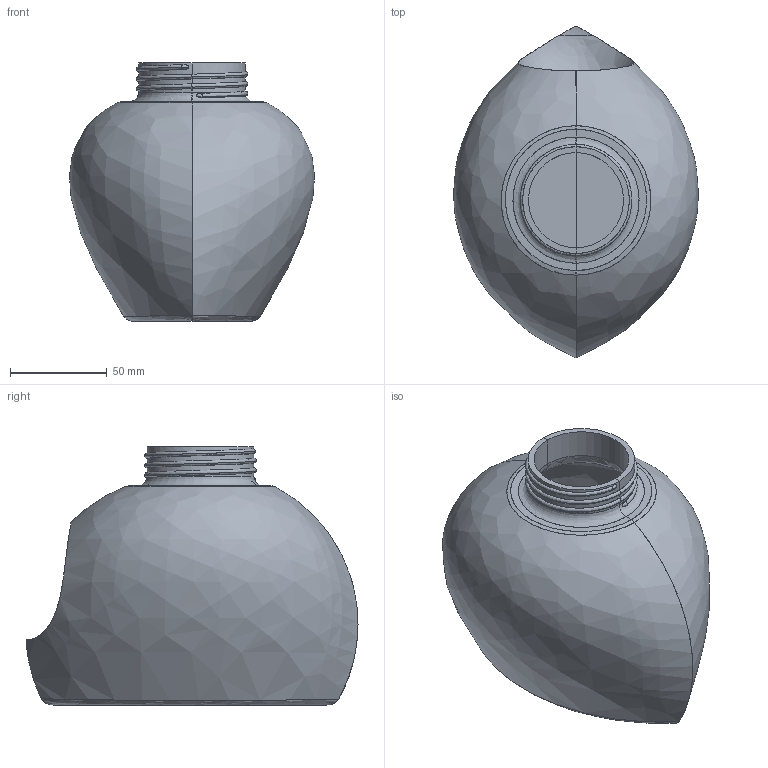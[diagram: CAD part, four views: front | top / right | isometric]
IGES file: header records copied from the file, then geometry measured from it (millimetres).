
Start section: START RECORD GO HERE.
Global section: file name: c1-Loscos_Martin_Carlos-solucion-posible.igs; native system: IBM CATIA IGES - CATIA Version 5 Release 19 ; preprocessor: CATIA Version 5 Release 19 ; author: andres.garcia; organization: IQS; date: 20200131.143928; units: millimetre
Bounding box: 126.29 x 171.15 x 133 mm (x, y, z)
Surface area: 123856.4 mm2 (no closed solid volume)
Topology: 0 solids, 0 shells, 54 faces, 252 edges, 248 vertices
Faces by surface type: bspline 32, revolution 16, plane 6
